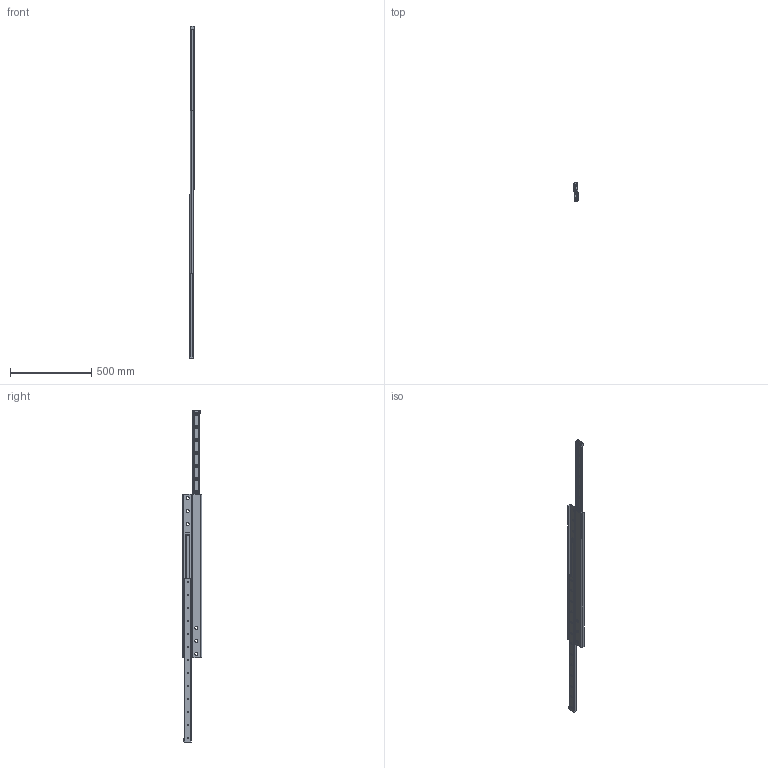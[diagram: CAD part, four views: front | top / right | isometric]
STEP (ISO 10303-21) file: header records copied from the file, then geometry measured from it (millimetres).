
FILE_DESCRIPTION(('STEP AP214'),'1');
FILE_NAME('rail_dss43-1010_01.stp','2017-04-17T03:59:55',('TraceParts'),('TraceParts S.A.'),'Spatial InterOp 3D',' ',' ');
FILE_SCHEMA(('automotive_design'));
Length unit declared in the file: millimetre
Products named in the file (3): rail_dss43-1010_01_1; rail_dss43-1010_01_2; rail_dss43-1010_01_3
Bounding box: 28 x 120 x 2046 mm (x, y, z)
Volume: 1804855.2 mm3; surface area: 724432.5 mm2
Topology: 3 solids, 3 shells, 306 faces, 818 edges, 528 vertices
Faces by surface type: plane 138, cylinder 116, cone 52
Entity records: 9739 total; most frequent: DIRECTION 1736, CARTESIAN_POINT 1655, ORIENTED_EDGE 1636, EDGE_CURVE 818, AXIS2_PLACEMENT_3D 609, VERTEX_POINT 528, LINE 518, VECTOR 518
